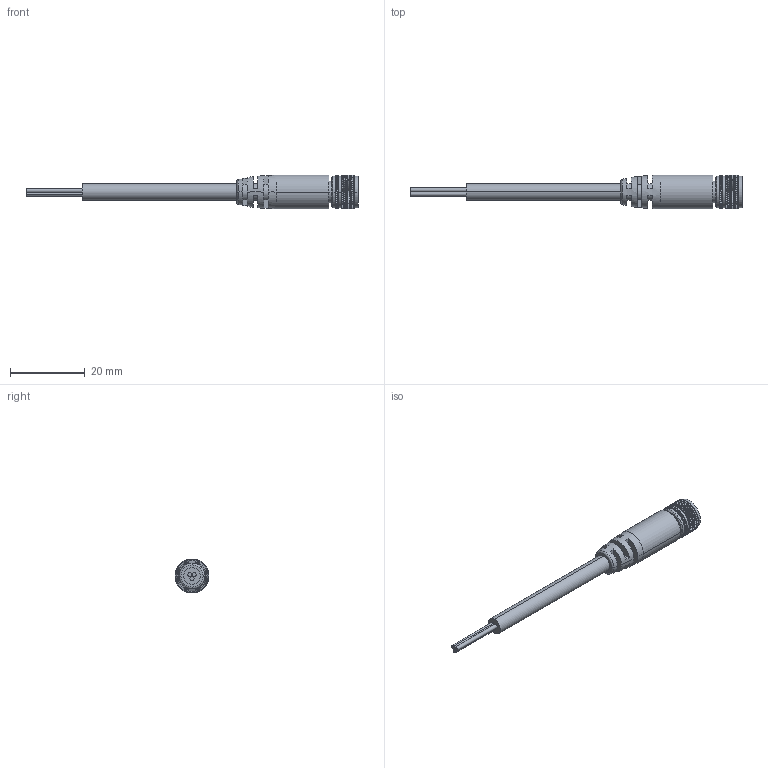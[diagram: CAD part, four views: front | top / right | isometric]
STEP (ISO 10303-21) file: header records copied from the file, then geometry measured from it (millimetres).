
FILE_DESCRIPTION((''),'2;1');
FILE_NAME('M83R_SW0002','2016-11-17T',('Yahsin'),(''),'CREO PARAMETRIC BY PTC INC, 2014500','CREO PARAMETRIC BY PTC INC, 2014500','');
FILE_SCHEMA(('CONFIG_CONTROL_DESIGN'));
Products named in the file (1): M83R_SW0002
Bounding box: 88.6 x 9 x 9 mm (x, y, z)
Volume: 2339.5 mm3; surface area: 2370.3 mm2
Topology: 1 solids, 1 shells, 1057 faces, 2833 edges, 1805 vertices
Faces by surface type: bspline 630, cylinder 273, plane 147, torus 4, cone 3
Entity records: 47118 total; most frequent: CARTESIAN_POINT 24949, ORIENTED_EDGE 5666, EDGE_CURVE 2833, DIRECTION 2732, VERTEX_POINT 1805, B_SPLINE_CURVE_WITH_KNOTS 1286, VECTOR 1216, LINE 1216
